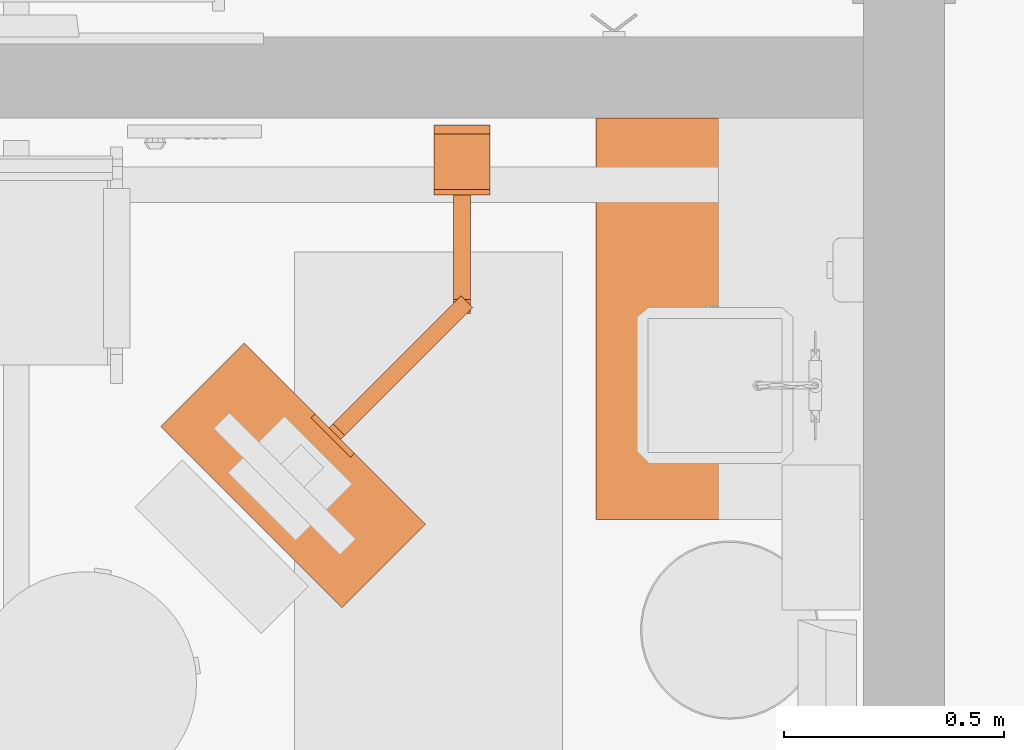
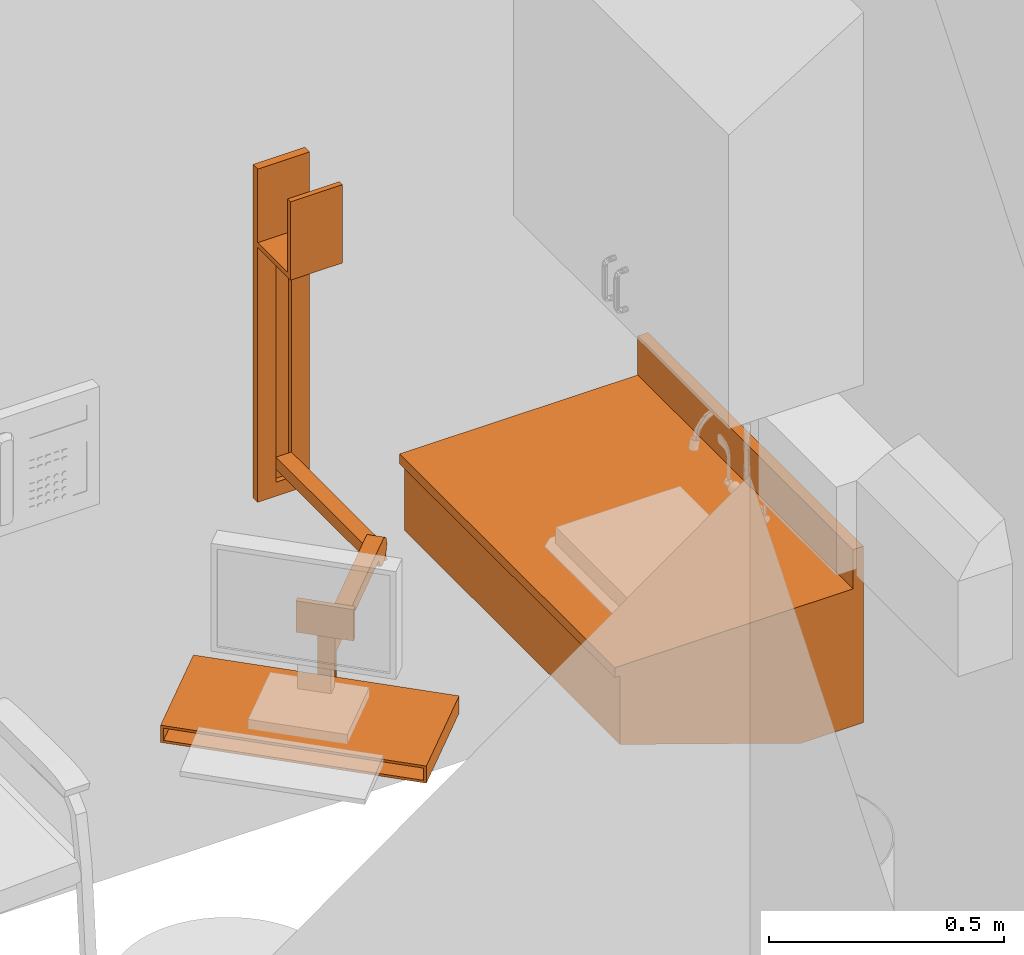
# One storey, part 44 of 142: 2 proxies.
"""IFC2X3 building model written with IfcOpenShell, lengths in feet."""

import ifcopenshell
import ifcopenshell.guid

model = None  # the IFC model being written
_history = None  # IfcOwnerHistory: only IFC2X3 demands one
_inside = {}  # id of a spatial element -> (the spatial element, [elements in it])
_under = {}  # id of a project, library or spatial element -> (it, [spatial elements below it])
_declared = {}  # id of a project -> (the project, [libraries it declares])
_typed = {}  # id of a type object -> (the type object, [elements of that type])
_made_of = {}  # id of a material, layer set ... -> (it, [elements and type objects made of it])


def new_model(schema):
    """Start an empty IFC model of exactly this schema.

    Asked for "IFC4X3", IfcOpenShell would pick the latest addendum, in which some entities
    have other attributes; the version numbers below select the first issue.
    IFC2X3 requires an IfcOwnerHistory on every rooted entity: one is made here for all.
    """
    global model, _history
    if schema == "IFC4X3":
        model = ifcopenshell.file(schema_version=(4, 3, 0, 0))
    else:
        model = ifcopenshell.file(schema=schema)
    _inside.clear()
    _under.clear()
    _declared.clear()
    _typed.clear()
    _made_of.clear()
    _history = None
    if model.schema == "IFC2X3":
        org = make("IfcOrganization", Name="unknown")
        user = make(
            "IfcPersonAndOrganization",
            ThePerson=make("IfcPerson", FamilyName="unknown"),
            TheOrganization=org,
        )
        app = make(
            "IfcApplication",
            ApplicationDeveloper=org,
            Version="unknown",
            ApplicationFullName="unknown",
            ApplicationIdentifier="unknown",
        )
        _history = make(
            "IfcOwnerHistory",
            OwningUser=user,
            OwningApplication=app,
            ChangeAction="ADDED",
            CreationDate=0,
        )
    return model


def make(cls, **values):
    """One entity of the class cls with the attributes given. An attribute that is None is left unset."""
    return model.create_entity(
        cls, **{name: value for name, value in values.items() if value is not None}
    )


def entity(cls, *values):
    """Any entity or typed value of the class cls, its attributes in the order of the schema. None: left unset."""
    e = model.create_entity(cls)
    for i, value in enumerate(values):
        if value is not None:
            e[i] = value
    return e


def rooted(cls, **values):
    """An entity with a GlobalId (a new one), such as an element, a storey or a relation."""
    return make(cls, GlobalId=ifcopenshell.guid.new(), OwnerHistory=_history, **values)


def si_unit(unit_type, name, prefix=None):
    """IfcSIUnit, for example si_unit("LENGTHUNIT", "METRE", prefix="MILLI")."""
    return make("IfcSIUnit", UnitType=unit_type, Prefix=prefix, Name=name)


def converted_unit(unit_type, name, factor, base, dimensions=None, offset=None):
    """IfcConversionBasedUnit, such as the inch: factor (a typed value) times the base unit."""
    return make(
        "IfcConversionBasedUnit"
        if offset is None
        else "IfcConversionBasedUnitWithOffset",
        ConversionOffset=offset,
        Dimensions=None
        if dimensions is None
        else entity("IfcDimensionalExponents", *dimensions),
        UnitType=unit_type,
        Name=name,
        ConversionFactor=make(
            "IfcMeasureWithUnit", ValueComponent=factor, UnitComponent=base
        ),
    )


def derived_unit(unit_type, elements):
    """IfcDerivedUnit: a product of units, each with its exponent."""
    return make(
        "IfcDerivedUnit",
        Elements=[
            make("IfcDerivedUnitElement", Unit=unit, Exponent=power)
            for unit, power in elements
        ],
        UnitType=unit_type,
    )


def assignment(units):
    """IfcUnitAssignment: the units of a project."""
    return None if units is None else make("IfcUnitAssignment", Units=units)


def point(xyz):
    """IfcCartesianPoint."""
    return None if xyz is None else make("IfcCartesianPoint", Coordinates=xyz)


def direction(xyz):
    """IfcDirection."""
    return None if xyz is None else make("IfcDirection", DirectionRatios=xyz)


def frame(location, z_axis=None, x_axis=None):
    """IfcAxis2Placement3D, a coordinate frame: its origin and axes. An axis left out is left unset."""
    return make(
        "IfcAxis2Placement3D",
        Location=point(location),
        Axis=direction(z_axis),
        RefDirection=direction(x_axis),
    )


def frame_2d(location, x_axis=None):
    """IfcAxis2Placement2D, a coordinate frame in the plane: its origin and x axis."""
    return make(
        "IfcAxis2Placement2D", Location=point(location), RefDirection=direction(x_axis)
    )


def origin():
    """The frame at (0, 0, 0) with its axes left unset."""
    return frame((0.0, 0.0, 0.0))


def origin_2d_with_axis():
    """The frame at (0, 0) in the plane with the x axis (1, 0) written out."""
    return frame_2d((0.0, 0.0), x_axis=(1.0, 0.0))


def place(relative_to, where):
    """IfcLocalPlacement: puts the frame where relative to a parent placement (None: the world)."""
    return make(
        "IfcLocalPlacement", PlacementRelTo=relative_to, RelativePlacement=where
    )


def context(
    kind, dimensions, precision=None, world=None, true_north=None, identifier=None
):
    """IfcGeometricRepresentationContext, for example the 3D "Model" context."""
    return make(
        "IfcGeometricRepresentationContext",
        ContextIdentifier=identifier,
        ContextType=kind,
        CoordinateSpaceDimension=dimensions,
        Precision=precision,
        WorldCoordinateSystem=world,
        TrueNorth=true_north,
    )


def subcontext(parent, identifier, kind, view, scale=None):
    """IfcGeometricRepresentationSubContext, for example "Body" below "Model"."""
    return make(
        "IfcGeometricRepresentationSubContext",
        ContextIdentifier=identifier,
        ContextType=kind,
        ParentContext=parent,
        TargetScale=scale,
        TargetView=view,
    )


def project(units=None, contexts=None):
    """IfcProject with its units and contexts."""
    return rooted(
        "IfcProject",
        Name="project",
        RepresentationContexts=contexts,
        UnitsInContext=assignment(units),
    )


def spatial(cls, under=None, at=None, **own):
    """A site, building, storey or space (cls), placed at a placement, below another one or the project."""
    s = rooted(cls, ObjectPlacement=at, **own)
    if under is not None:
        _under.setdefault(under.id(), (under, []))[1].append(s)
    return s


def polyline(points):
    """IfcPolyline through the points."""
    return make("IfcPolyline", Points=[point(p) for p in points])


def circle_curve(where, radius):
    """IfcCircle in the frame where."""
    return make("IfcCircle", Position=where, Radius=radius)


def parameter(value):
    """IfcParameterValue: where a trimmed curve begins or ends, as a parameter of its basis curve."""
    return model.create_entity("IfcParameterValue", value)


def trimmed(basis, trim1, trim2, sense, master):
    """IfcTrimmedCurve: the piece of a basis curve between two trims."""
    return make(
        "IfcTrimmedCurve",
        BasisCurve=basis,
        Trim1=trim1,
        Trim2=trim2,
        SenseAgreement=sense,
        MasterRepresentation=master,
    )


def segment(curve, same_sense, transition):
    """IfcCompositeCurveSegment."""
    return make(
        "IfcCompositeCurveSegment",
        Transition=transition,
        SameSense=same_sense,
        ParentCurve=curve,
    )


def composite_curve(segments, self_intersect=None):
    """IfcCompositeCurve: segments joined end to end."""
    return make("IfcCompositeCurve", Segments=segments, SelfIntersect=self_intersect)


def profile(cls, at=None, kind="AREA", **sizes):
    """A parametric profile (cls). Its sizes go by their IFC names, for example OverallWidth=200.0."""
    return make(cls, ProfileType=kind, Position=at, **sizes)


def rectangle(**sizes):
    """IfcRectangleProfileDef."""
    return profile("IfcRectangleProfileDef", **sizes)


def circle(**sizes):
    """IfcCircleProfileDef."""
    return profile("IfcCircleProfileDef", **sizes)


def outline(outer, holes=None, kind="AREA"):
    """IfcArbitraryClosedProfileDef: a profile drawn as a closed curve; with holes, ...WithVoids."""
    if holes is None:
        return make("IfcArbitraryClosedProfileDef", ProfileType=kind, OuterCurve=outer)
    return make(
        "IfcArbitraryProfileDefWithVoids",
        ProfileType=kind,
        OuterCurve=outer,
        InnerCurves=holes,
    )


def extrude(swept, where, along, depth):
    """IfcExtrudedAreaSolid: the profile swept, set in the frame where, extruded along a direction by depth."""
    return make(
        "IfcExtrudedAreaSolid",
        SweptArea=swept,
        Position=where,
        ExtrudedDirection=direction(along),
        Depth=depth,
    )


def faces_of(points, faces, orient=None, outer=None):
    """IfcFace entities. A face is a list of loops; a loop is a list of indices into points, from 0.

    orient and outer hold one flag for each loop. By default every Orientation is true, the
    first loop of a face is its IfcFaceOuterBound and the others are IfcFaceBound.
    """
    made = []
    for i, loops in enumerate(faces):
        bounds = []
        for j, loop in enumerate(loops):
            is_outer = j == 0 if outer is None else outer[i][j]
            bounds.append(
                make(
                    "IfcFaceOuterBound" if is_outer else "IfcFaceBound",
                    Bound=make("IfcPolyLoop", Polygon=[points[k] for k in loop]),
                    Orientation=True if orient is None else orient[i][j],
                )
            )
        made.append(make("IfcFace", Bounds=bounds))
    return made


def faceted_brep(points, faces, orient=None, outer=None, voids=None):
    """IfcFacetedBrep: a solid bounded by flat faces; with voids (closed shells), ...WithVoids."""
    shared = [point(p) for p in points]
    hull = make("IfcClosedShell", CfsFaces=faces_of(shared, faces, orient, outer))
    if voids is None:
        return make("IfcFacetedBrep", Outer=hull)
    return make(
        "IfcFacetedBrepWithVoids",
        Outer=hull,
        Voids=[
            make(cls, CfsFaces=faces_of(shared, fs, o, b)) for cls, fs, o, b in voids
        ],
    )


def shape(context_of_items, identifier, shape_type, items):
    """IfcShapeRepresentation: the items that make up one representation, for example the "Body"."""
    return make(
        "IfcShapeRepresentation",
        ContextOfItems=context_of_items,
        RepresentationIdentifier=identifier,
        RepresentationType=shape_type,
        Items=items,
    )


def source(mapping_origin, context_of_items, identifier, shape_type, items):
    """IfcRepresentationMap: a shape defined once, which mapped items show again and again."""
    return make(
        "IfcRepresentationMap",
        MappingOrigin=mapping_origin,
        MappedRepresentation=shape(context_of_items, identifier, shape_type, items),
    )


def transform(
    local_origin,
    x_axis=None,
    y_axis=None,
    z_axis=None,
    scale=None,
    scale2=None,
    scale3=None,
    uniform=True,
):
    """IfcCartesianTransformationOperator3D, or its non-uniform kind. x_axis, y_axis, z_axis: its Axis1, 2, 3."""
    if uniform:
        return make(
            "IfcCartesianTransformationOperator3D",
            Axis1=direction(x_axis),
            Axis2=direction(y_axis),
            LocalOrigin=point(local_origin),
            Scale=scale,
            Axis3=direction(z_axis),
        )
    return make(
        "IfcCartesianTransformationOperator3DnonUniform",
        Axis1=direction(x_axis),
        Axis2=direction(y_axis),
        LocalOrigin=point(local_origin),
        Scale=scale,
        Axis3=direction(z_axis),
        Scale2=scale2,
        Scale3=scale3,
    )


def mapped(mapping_source, mapping_target):
    """IfcMappedItem: shows the shape of a source again, moved by a transform."""
    return make(
        "IfcMappedItem", MappingSource=mapping_source, MappingTarget=mapping_target
    )


def made_of(thing, what):
    """Note that an element or type object is made of a material, layer set ...; save() writes the relation."""
    if what is not None:
        _made_of.setdefault(what.id(), (what, []))[1].append(thing)
    return thing


def type_object(cls, material=None, **own):
    """A type object (cls), such as IfcWallType, which elements share."""
    return made_of(rooted(cls, **own), material)


def type_shapes(of_type, sources):
    """Give a type object the sources (RepresentationMaps) that its elements show as mapped items."""
    of_type.RepresentationMaps = sources


def element(
    cls,
    number,
    at=None,
    inside=None,
    cuts=None,
    type_object=None,
    material=None,
    context=None,
    identifier="Body",
    shape_type=None,
    held_by="IfcProductDefinitionShape",
    body=None,
    shapes=None,
    **own,
):
    """One element of the class cls, such as IfcWall. Its Tag is "e" and its number.

    at: its placement. inside: the storey or other place that contains it. cuts: it is an
    opening in that element (IfcRelVoidsElement). A single representation is given by context,
    identifier, shape_type and body (its items); several are given by shapes. held_by: the class
    of the entity that holds the representations. save() writes the other relations.
    """
    e = rooted(cls, Tag="e%d" % number, ObjectPlacement=at, **own)
    if body is not None:
        shapes = [shape(context, identifier, shape_type, body)]
    if shapes is not None:
        e.Representation = make(held_by, Representations=shapes)
    if inside is not None:
        _inside.setdefault(inside.id(), (inside, []))[1].append(e)
    if cuts is not None:
        rooted(
            "IfcRelVoidsElement", RelatingBuildingElement=cuts, RelatedOpeningElement=e
        )
    if type_object is not None:
        _typed.setdefault(type_object.id(), (type_object, []))[1].append(e)
    return made_of(e, material)


def aggregate(whole, parts):
    """IfcRelAggregates: a whole, such as a stair, and the parts it consists of."""
    return rooted("IfcRelAggregates", RelatingObject=whole, RelatedObjects=parts)


def save(model, path):
    """Write the relations noted so far, then the file.

    IfcRelAggregates (storeys below a building ...), IfcRelContainedInSpatialStructure (elements
    in a storey), IfcRelDefinesByType, IfcRelAssociatesMaterial and IfcRelDeclares: one each for
    every whole, place, type object, material and project.
    """
    for whole, parts in _under.values():
        aggregate(whole, parts)
    for where, things in _inside.values():
        rooted(
            "IfcRelContainedInSpatialStructure",
            RelatedElements=things,
            RelatingStructure=where,
        )
    for kind, things in _typed.values():
        rooted("IfcRelDefinesByType", RelatedObjects=things, RelatingType=kind)
    for what, things in _made_of.values():
        rooted("IfcRelAssociatesMaterial", RelatedObjects=things, RelatingMaterial=what)
    for by, libraries in _declared.values():
        rooted("IfcRelDeclares", RelatingContext=by, RelatedDefinitions=libraries)
    model.write(path)


model = new_model("IFC2X3")

# Units and contexts
model_context = context("Model", 3, precision=0.0001, world=origin(), true_north=direction((6.12303176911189e-17, 1.0)))
body_context = subcontext(model_context, "Body", "Model", "MODEL_VIEW")
ifc_project = project(units=[converted_unit("LENGTHUNIT", "FOOT", entity("IfcRatioMeasure", 0.3048), si_unit("LENGTHUNIT", "METRE"), dimensions=[1, 0, 0, 0, 0, 0, 0]), converted_unit("AREAUNIT", "SQUARE FOOT", entity("IfcRatioMeasure", 0.09290304), si_unit("AREAUNIT", "SQUARE_METRE"), dimensions=[2, 0, 0, 0, 0, 0, 0]), converted_unit("VOLUMEUNIT", "CUBIC FOOT", entity("IfcRatioMeasure", 0.028316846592), si_unit("VOLUMEUNIT", "CUBIC_METRE"), dimensions=[3, 0, 0, 0, 0, 0, 0]), converted_unit("PLANEANGLEUNIT", "DEGREE", entity("IfcRatioMeasure", 0.0174532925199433), si_unit("PLANEANGLEUNIT", "RADIAN"), dimensions=[0, 0, 0, 0, 0, 0, 0]), si_unit("MASSUNIT", "GRAM", prefix="KILO"), derived_unit("MASSDENSITYUNIT", [(si_unit("MASSUNIT", "GRAM", prefix="KILO"), 1), (si_unit("LENGTHUNIT", "METRE"), -3)]), si_unit("TIMEUNIT", "SECOND"), si_unit("FREQUENCYUNIT", "HERTZ"), si_unit("THERMODYNAMICTEMPERATUREUNIT", "DEGREE_CELSIUS"), derived_unit("THERMALTRANSMITTANCEUNIT", [(si_unit("MASSUNIT", "GRAM", prefix="KILO"), 1), (si_unit("THERMODYNAMICTEMPERATUREUNIT", "KELVIN"), -1), (si_unit("TIMEUNIT", "SECOND"), -3)]), derived_unit("VOLUMETRICFLOWRATEUNIT", [(si_unit("LENGTHUNIT", "METRE"), 3), (si_unit("TIMEUNIT", "SECOND"), -1)]), si_unit("ELECTRICCURRENTUNIT", "AMPERE"), si_unit("ELECTRICVOLTAGEUNIT", "VOLT"), si_unit("POWERUNIT", "WATT"), si_unit("FORCEUNIT", "NEWTON"), si_unit("ILLUMINANCEUNIT", "LUX"), si_unit("LUMINOUSFLUXUNIT", "LUMEN"), si_unit("LUMINOUSINTENSITYUNIT", "CANDELA"), derived_unit("USERDEFINED", [(si_unit("MASSUNIT", "GRAM", prefix="KILO"), -1), (si_unit("LENGTHUNIT", "METRE"), -2), (si_unit("TIMEUNIT", "SECOND"), 3), (si_unit("LUMINOUSFLUXUNIT", "LUMEN"), 1)]), derived_unit("LINEARVELOCITYUNIT", [(si_unit("LENGTHUNIT", "METRE"), 1), (si_unit("TIMEUNIT", "SECOND"), -1)]), si_unit("PRESSUREUNIT", "PASCAL"), derived_unit("USERDEFINED", [(si_unit("LENGTHUNIT", "METRE"), -2), (si_unit("MASSUNIT", "GRAM", prefix="KILO"), 1), (si_unit("TIMEUNIT", "SECOND"), -2)])], contexts=[model_context])

# Site, building, storey, space
site_placement = place(None, origin())
site = spatial("IfcSite", under=ifc_project, at=site_placement, Name="Default", CompositionType="ELEMENT")
building_placement = place(site_placement, origin())
building = spatial("IfcBuilding", under=site, at=building_placement, Name="OUTPATIENT / PACT CLINIC (Ch. 265)", CompositionType="ELEMENT")
storey_placement = place(building_placement, origin())
storey = spatial("IfcBuildingStorey", under=building, at=storey_placement, Name="LEVEL 1", CompositionType="ELEMENT", Elevation=0.0)
space_placement = place(storey_placement, origin())
space = spatial("IfcSpace", under=storey, at=space_placement, Name="EXW01", CompositionType="ELEMENT", InteriorOrExteriorSpace="INTERNAL")

# Proxies
building_element_proxy_type_1 = type_object("IfcBuildingElementProxyType", Name="M1803 - Workstation, Computer, Wall Mounted", PredefinedType="NOTDEFINED")
shared_shape_1 = source(origin(), body_context, "Body", "SweptSolid", [
    extrude(circle(Radius=0.104166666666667, at=frame_2d((1.0547118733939e-15, 3.336446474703e-16), x_axis=(1.0, 0.0))), frame((-0.0810226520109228, -1.34888430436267, 0.333333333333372), z_axis=(0.707106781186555, -0.70710678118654, 0.0), x_axis=(0.0, 0.0, 1.0)), (0.0, 0.0, 1.0), 0.125000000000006),
    extrude(outline(composite_curve([segment(polyline([(0.0520833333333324, -0.592708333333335), (0.0520833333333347, 0.644791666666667)]), True, "CONTINUOUS"), segment(polyline([(0.0520833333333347, 0.644791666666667), (-0.0520833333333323, 0.644791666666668)]), True, "CONTINUOUS"), segment(polyline([(-0.0520833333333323, 0.644791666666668), (-0.0520833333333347, -0.696875)]), True, "CONTINUOUS"), segment(trimmed(circle_curve(frame_2d((0.0520833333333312, -0.696875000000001), x_axis=(1.0, 0.0)), 0.104166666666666), [parameter(89.9999999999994)], [parameter(180.0)], True, "PARAMETER"), False, "CONTINUOUS")], self_intersect=False)), frame((-0.0624999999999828, -0.711458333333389, 0.281250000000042), z_axis=(-1.0, 0.0, 0.0), x_axis=(0.0, 0.0, 1.0)), (0.0, 0.0, -1.0), 0.125000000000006),
    extrude(outline(composite_curve([segment(polyline([(0.0520833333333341, -0.651041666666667), (0.0520833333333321, 0.598958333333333)]), True, "CONTINUOUS"), segment(polyline([(0.0520833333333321, 0.598958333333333), (-0.0520833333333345, 0.598958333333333)]), True, "CONTINUOUS"), segment(polyline([(-0.0520833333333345, 0.598958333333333), (-0.0520833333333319, -0.546875)]), True, "CONTINUOUS"), segment(trimmed(circle_curve(frame_2d((-0.0520833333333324, -0.651041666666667), x_axis=(1.0, 0.0)), 0.104166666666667), [parameter(1.01777749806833e-13)], [parameter(90.0000000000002)], True, "PARAMETER"), False, "CONTINUOUS")], self_intersect=False)), frame((-0.452990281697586, -1.89762862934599, 0.385416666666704), z_axis=(0.707106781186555, -0.70710678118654, 0.0), x_axis=(0.0, 0.0, 1.0)), (0.0, 0.0, -1.0), 0.125000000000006),
    extrude(outline(polyline([(-0.0729166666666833, -0.95833333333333), (0.0729166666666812, -0.95833333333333), (0.0729166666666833, 0.95833333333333), (-0.0729166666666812, 0.95833333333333), (-0.0729166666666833, -0.95833333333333)]), holes=[polyline([(-0.05208333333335, -0.937499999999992), (-0.052083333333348, 0.937499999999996), (0.0520833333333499, 0.937499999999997), (0.0520833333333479, -0.937499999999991), (-0.05208333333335, -0.937499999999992)])]), frame((-1.5747857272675, -2.93103572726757, 0.0729166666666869), z_axis=(0.707106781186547, 0.707106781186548, 0.0), x_axis=(0.0, 0.0, -1.0)), (0.0, 0.0, 1.0), 0.883333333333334),
    extrude(rectangle(XDim=0.0666666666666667, YDim=0.416666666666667, at=origin_2d_with_axis()), frame((0.0, -0.0333333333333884, 0.0), z_axis=(0.0, 0.0, 1.0), x_axis=(0.0, 1.0, 0.0)), (0.0, 0.0, 1.0), 0.11949518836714),
    extrude(outline(polyline([(-0.208333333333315, -0.0270833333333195), (-0.0625000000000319, -0.0270833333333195), (-0.0625000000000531, 0.014583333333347), (0.0625000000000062, 0.014583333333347), (0.0625000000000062, -0.0270833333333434), (0.208333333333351, -0.0270833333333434), (0.208333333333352, 0.0395833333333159), (-0.208333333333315, 0.0395833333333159), (-0.208333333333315, -0.0270833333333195)])), frame((0.0, -0.0395833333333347, 0.119495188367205)), (0.0, 0.0, 1.0), 2.0471714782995),
    extrude(outline(polyline([(-0.194444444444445, 0.125), (0.430555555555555, 0.125), (0.430555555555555, 0.166666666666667), (-0.236111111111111, 0.166666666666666), (-0.236111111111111, -0.291666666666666), (-0.194444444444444, -0.291666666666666), (-0.194444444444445, 0.125)])), frame((-0.208333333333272, -0.358333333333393, 2.40277777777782), z_axis=(1.0, 0.0, 0.0), x_axis=(0.0, 0.0, 1.0)), (0.0, 0.0, 1.0), 0.416666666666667),
    extrude(rectangle(XDim=0.0416666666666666, YDim=0.416666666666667, at=frame_2d((4.16333634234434e-17, -5.55111512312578e-17), x_axis=(1.0, 0.0))), frame((-0.964906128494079, -2.3211561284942, 0.503601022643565), z_axis=(0.0, 0.0, 1.0), x_axis=(0.707106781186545, 0.70710678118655, 0.0)), (0.0, 0.0, 1.0), 0.267232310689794),
    extrude(rectangle(XDim=0.125000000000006, YDim=0.0416666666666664, at=frame_2d((-1.94289029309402e-16, 1.16226472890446e-16), x_axis=(1.0, 0.0))), frame((-0.935443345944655, -2.29169334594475, 0.0), z_axis=(0.0, 0.0, 1.0), x_axis=(-0.707106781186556, 0.70710678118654, 0.0)), (0.0, 0.0, 1.0), 0.666666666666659),
    extrude(rectangle(XDim=0.0666666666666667, YDim=0.416666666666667, at=origin_2d_with_axis()), frame((0.0, -0.0333333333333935, 2.16666666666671), z_axis=(0.0, 0.0, 1.0), x_axis=(0.0, 1.0, 0.0)), (0.0, 0.0, 1.0), 0.666666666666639),
])
type_shapes(building_element_proxy_type_1, [shared_shape_1])
proxy_1_placement = place(space_placement, frame((444.754977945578, -921.493425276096, 2.87499999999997)))
element("IfcBuildingElementProxy", 1, at=proxy_1_placement, inside=space, type_object=building_element_proxy_type_1, Name="M1803 - Workstation, Computer, Wall Mounted1:M1803 - Workstation, Computer, Wall Mounted", ObjectType="M1803 - Workstation, Computer, Wall Mounted", context=body_context, shape_type="MappedRepresentation", body=[
    mapped(shared_shape_1, transform((0.0, 0.0, 0.0), scale=1.0)),
])
building_element_proxy_type_2 = type_object("IfcBuildingElementProxyType", Name="CT020 - Countertop, Solid Surface", PredefinedType="NOTDEFINED")
shared_shape_2 = source(origin(), body_context, "Body", "Brep", [
    faceted_brep([(-1.50000000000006, -0.874999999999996, 0.0), (-1.50000000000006, -0.874999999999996, -0.528571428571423), (-1.50000000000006, 0.500000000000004, -1.0), (-1.50000000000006, 1.0, -1.0), (-1.50000000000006, 1.0, -1.08333333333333), (-1.50000000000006, 0.500000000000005, -1.08333333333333), (-1.50000000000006, -0.958333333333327, -0.583333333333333), (-1.50000000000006, -0.958333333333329, 0.0), (1.41666666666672, -0.875, 0.0), (1.41666666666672, -0.875, -0.528571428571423), (1.50000000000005, -0.958333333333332, 0.0), (1.50000000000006, -0.958333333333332, -0.583333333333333), (1.50000000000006, 1.0, 0.0), (1.41666666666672, 1.0, 0.0), (1.41666666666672, 1.0, -1.0), (1.41666666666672, 0.499999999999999, -1.0), (1.50000000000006, 0.499999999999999, -1.08333333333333), (1.50000000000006, 1.0, -1.08333333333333)], [[[0, 1, 2, 3, 4, 5, 6, 7]], [[1, 0, 8, 9]], [[10, 7, 6, 11]], [[0, 7, 10, 12, 13, 8]], [[13, 14, 15, 9, 8]], [[12, 10, 11, 16, 17]], [[14, 13, 12, 17, 4, 3]], [[2, 1, 9, 15]], [[6, 5, 16, 11]], [[17, 16, 5, 4]], [[3, 2, 15, 14]]]),
    faceted_brep([(-1.50000000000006, 0.91666666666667, 0.416666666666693), (-1.50000000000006, 1.0, 0.416666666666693), (-1.50000000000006, 1.0, 0.0833333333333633), (-1.50000000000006, 0.91666666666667, 0.0833333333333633), (1.50000000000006, 0.916666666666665, 0.416666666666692), (1.50000000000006, 0.916666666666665, 0.0833333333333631), (1.50000000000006, 1.0, 0.0833333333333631), (1.50000000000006, 1.0, 0.416666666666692)], [[[0, 1, 2, 3]], [[4, 5, 6, 7]], [[1, 0, 4, 7]], [[2, 1, 7, 6]], [[3, 2, 6, 5]], [[0, 3, 5, 4]]]),
    faceted_brep([(1.50000000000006, 1.0, 0.0833333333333), (-1.50000000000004, 1.0, 0.0833333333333), (-1.50000000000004, -1.0, 0.0833333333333), (1.50000000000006, -1.0, 0.0833333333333), (1.50000000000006, 1.0, 0.0), (1.50000000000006, -1.0, 0.0), (-1.50000000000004, -1.0, 0.0), (-1.50000000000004, 1.0, 0.0)], [[[0, 1, 2, 3]], [[4, 5, 6, 7]], [[1, 0, 4, 7]], [[2, 1, 7, 6]], [[3, 2, 6, 5]], [[0, 3, 5, 4]]]),
    faceted_brep([(-1.5, 1.0, 0.0833333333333), (-1.5, 0.0, 0.0833333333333), (-1.5, -1.0, 0.0833333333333), (1.5, -1.0, 0.0833333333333), (1.5, 1.0, 0.0833333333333), (-1.5, 1.0, 0.0), (1.5, 1.0, 0.0), (1.5, -1.0, 0.0), (-1.5, -1.0, 0.0), (-1.5, 0.0, 0.0)], [[[0, 1, 2, 3, 4]], [[5, 6, 7, 8, 9]], [[1, 0, 5, 9]], [[2, 1, 9, 8]], [[3, 2, 8, 7]], [[4, 3, 7, 6]], [[0, 4, 6, 5]]]),
])
type_shapes(building_element_proxy_type_2, [shared_shape_2])
proxy_2_placement = place(space_placement, frame((446.754977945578, -922.941341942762, 2.70833333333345), z_axis=(0.0, 0.0, 1.0), x_axis=(0.0, -1.0, 0.0)))
element("IfcBuildingElementProxy", 2, at=proxy_2_placement, inside=space, type_object=building_element_proxy_type_2, Name="CT020 - Countertop, Solid Surface:CT020 - Countertop, Solid Surface", ObjectType="CT020 - Countertop, Solid Surface", context=body_context, shape_type="MappedRepresentation", body=[
    mapped(shared_shape_2, transform((0.0, 0.0, 0.0), scale=1.0)),
])

save(model, "model.ifc")
